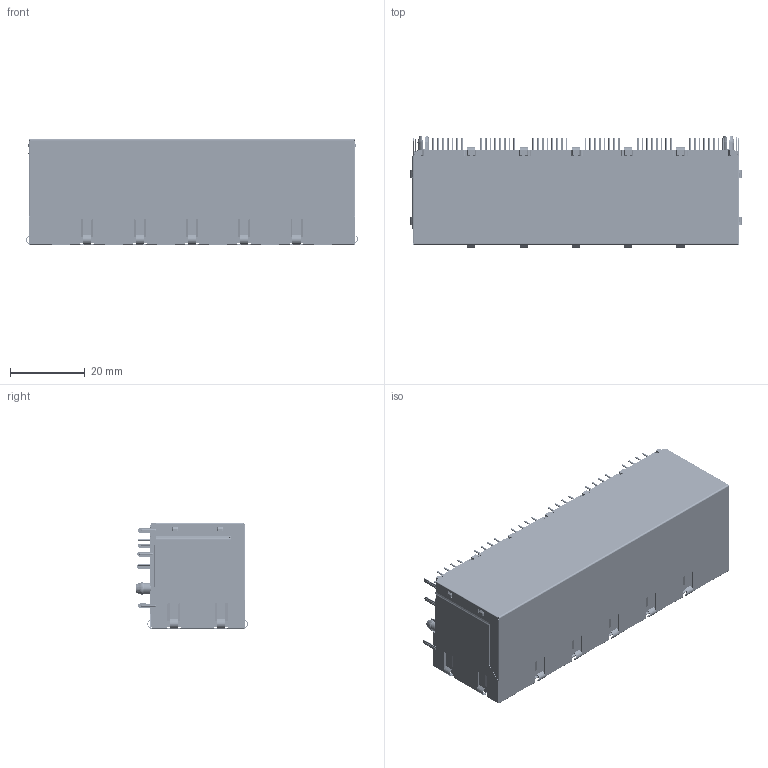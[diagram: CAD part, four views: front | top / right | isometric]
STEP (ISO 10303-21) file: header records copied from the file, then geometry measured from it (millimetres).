
FILE_DESCRIPTION((''),'2;1');
FILE_NAME('ASM0001_ASM','2017-12-11T',('glg'),(''),'PRO/ENGINEER BY PARAMETRIC TECHNOLOGY CORPORATION, 2012130','PRO/ENGINEER BY PARAMETRIC TECHNOLOGY CORPORATION, 2012130','');
FILE_SCHEMA(('CONFIG_CONTROL_DESIGN'));
Products named in the file (11): HOU; 2X6SHALL; H; N41041-305XX; GOLD-8; F41042-3XXXXX_ASM; N43000-1XXXX; N43000-2XXXX; GOLD; F43000-1XXXXX_ASM; ASM0001_ASM
Assembly tree (20 placements, depth 3):
  ASM0001_ASM
    HOU
    2X6SHALL
    H
    F41042-3XXXXX_ASM  x6
      N41041-305XX
      GOLD-8
    F43000-1XXXXX_ASM  x6
      N43000-1XXXX
      N43000-2XXXX
      GOLD
Bounding box: 88.7 x 29.9 x 28.2 mm (x, y, z)
Volume: 34391 mm3; surface area: 78602.8 mm2
Topology: 117 solids, 117 shells, 10275 faces, 27621 edges, 17476 vertices
Faces by surface type: plane 6389, cylinder 2948, torus 482, bspline 388, sphere 64, cone 4
Entity records: 168031 total; most frequent: CARTESIAN_POINT 33203, ORIENTED_EDGE 28832, DIRECTION 27148, EDGE_CURVE 14416, VECTOR 11468, LINE 11468, VERTEX_POINT 9086, AXIS2_PLACEMENT_3D 7840
